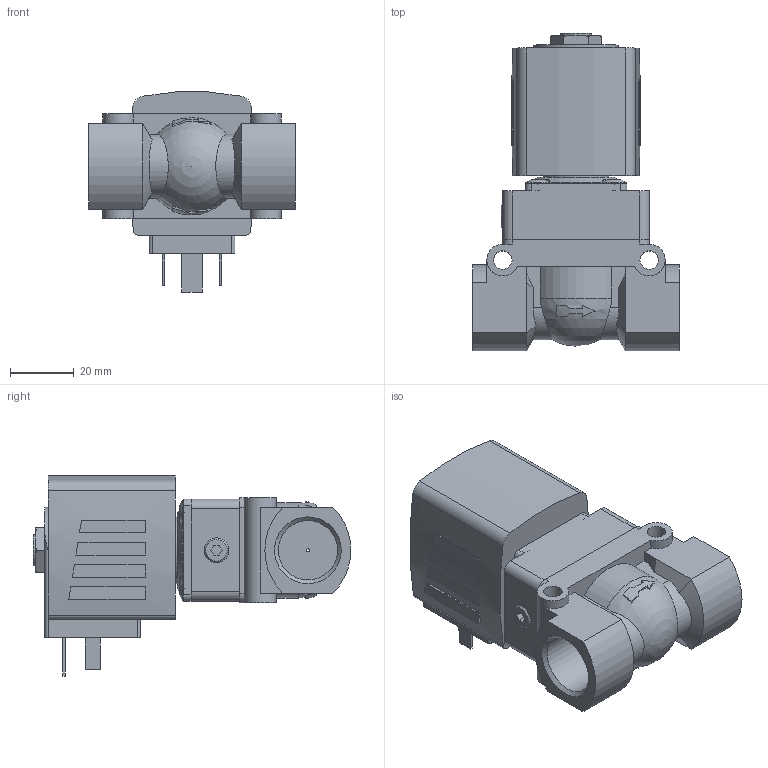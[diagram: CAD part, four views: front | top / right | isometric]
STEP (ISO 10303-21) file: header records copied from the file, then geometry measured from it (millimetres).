
FILE_DESCRIPTION(/* description */ ('STEP AP214'),/* implementation_level */ '2;1');
FILE_NAME(/* name */ '5404-295634-Servo-assisted_2_2_way_piston_valve',/* time_stamp */ '2024-02-27T14:57:05+01:00',/* author */ ('License CC BY-ND 4.0'),/* organization */ ('CADENAS'),/* preprocessor_version */ 'ST-DEVELOPER v19.3',/* originating_system */ 'PARTsolutions',/* authorisation */ ' ');
FILE_SCHEMA (('AUTOMOTIVE_DESIGN {1 0 10303 214 3 1 1}'));
Length unit declared in the file: millimetre
Products named in the file (4): 5404-295634-Servo-assisted 2/2 way piston valve; 5282g-8412MS000-2/2-Wege-Magnetventil_Gehaeuse; 5282d-12MSBU3J-2/2-Wege-Magnetventil_Deckel; AC10ex-6NA38-Plan-Coil
Assembly tree (3 placements, depth 2):
  5404-295634-Servo-assisted 2/2 way piston valve
    5282g-8412MS000-2/2-Wege-Magnetventil_Gehaeuse
    5282d-12MSBU3J-2/2-Wege-Magnetventil_Deckel
    AC10ex-6NA38-Plan-Coil
Bounding box: 65 x 99.8 x 62.83 mm (x, y, z)
Volume: 144569.1 mm3; surface area: 30723.2 mm2
Topology: 3 solids, 3 shells, 244 faces, 600 edges, 392 vertices
Faces by surface type: plane 160, cylinder 59, cone 17, torus 5, sphere 3
Full cylindrical faces by diameter (mm): 1 x1, 2.013 x1, 4 x4, 5.8 x2, 7.5 x4, 7.6 x4, 7.8 x1, 9.74 x1, 18.631 x2, 21 x1
Entity records: 7787 total; most frequent: CARTESIAN_POINT 1322, DIRECTION 1224, ORIENTED_EDGE 1114, EDGE_CURVE 557, AXIS2_PLACEMENT_3D 453, VERTEX_POINT 381, LINE 318, VECTOR 318
